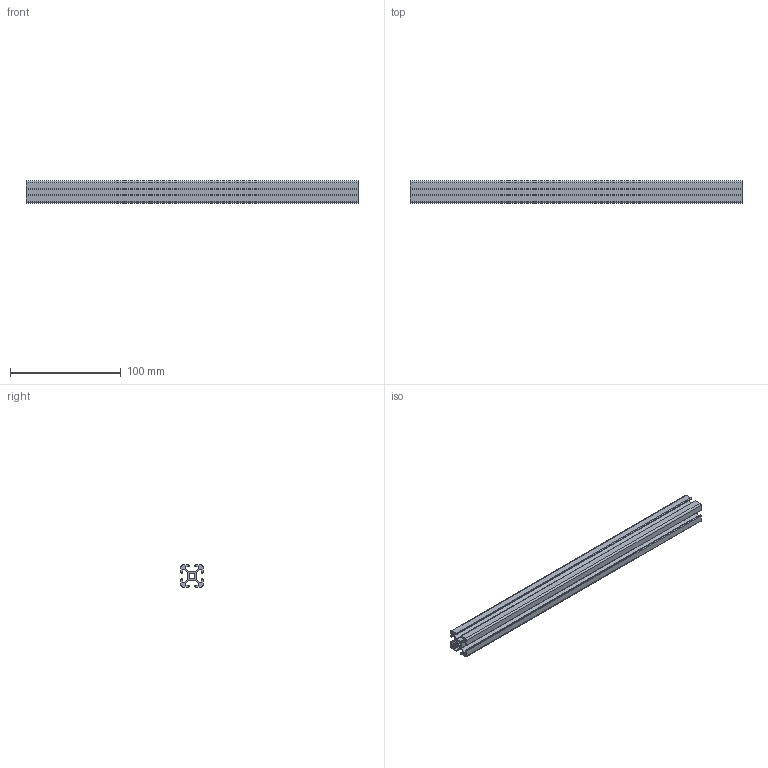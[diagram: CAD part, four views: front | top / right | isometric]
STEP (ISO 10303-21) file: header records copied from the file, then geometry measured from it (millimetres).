
FILE_DESCRIPTION(/* description */ ('STEP AP242 Edition 2','CAx-IF Rec.Pracs.---Representation and Presentation of Product Manufacturing Information (PMI)---4.0---2014-10-13','CAx-IF Rec.Pracs.---3D Tessellated Geometry---0.4---2014-09-14','2;1','CAx-IF Rec.Pracs.---User Defined Attributes---1.5---2016-08-15'),/* implementation_level */ '2;1');
FILE_NAME(/* name */ 'Assembly 1 - Part 1',/* time_stamp */ '2026-10-08T06:00:11Z',/* author */ (''),/* organization */ (''),/* preprocessor_version */ 'ST-DEVELOPER v20',/* originating_system */ 'ONSHAPE BY PTC INC, 1.221',/* authorisation */ ' ');
FILE_SCHEMA (('AP242_MANAGED_MODEL_BASED_3D_ENGINEERING_MIM_LF { 1 0 10303 442 3 1 4 }'));
Length unit declared in the file: metre
Products named in the file (1): Part 1
Bounding box: 300 x 20 x 20 mm (x, y, z)
Volume: 48748.6 mm3; surface area: 54612 mm2
Topology: 1 solids, 1 shells, 106 faces, 318 edges, 214 vertices
Faces by surface type: bspline 106
Entity records: 3822 total; most frequent: CARTESIAN_POINT 1181, ORIENTED_EDGE 636, DIRECTION 438, EDGE_CURVE 318, VERTEX_POINT 214, LINE 200, VECTOR 200, AXIS2_PLACEMENT_3D 119
